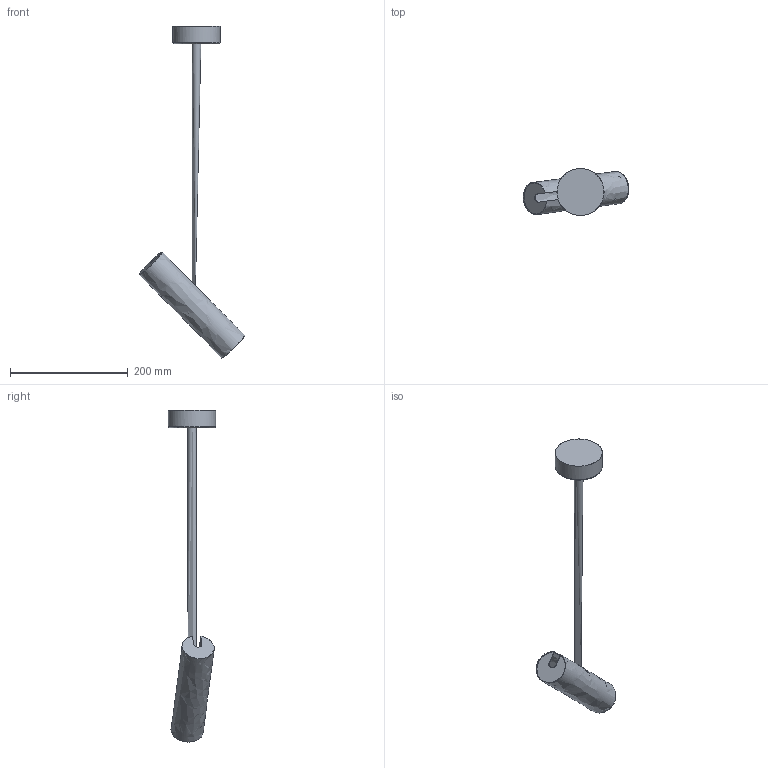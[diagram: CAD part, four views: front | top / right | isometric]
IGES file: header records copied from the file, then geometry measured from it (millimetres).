
Start section: SolidWorks IGES file using NURBS representation for surfaces
Global section: file name: Z:\Modele 3D_WWW\_KOLEKCJE WWW\EYE-SUPER\EYE-SUPER-A-6488-6495-6502\EYE-SUPER-A-6488-6495-6502.IGS; native system: SolidWorks 2021; preprocessor: SolidWorks 2021; author: gabriela.tworek; date: 220323.141612; units: millimetre
Bounding box: 179.17 x 80 x 564.23 mm (x, y, z)
Surface area: 112434.7 mm2 (no closed solid volume)
Topology: 0 solids, 0 shells, 20 faces, 115 edges, 109 vertices
Faces by surface type: bspline 20
